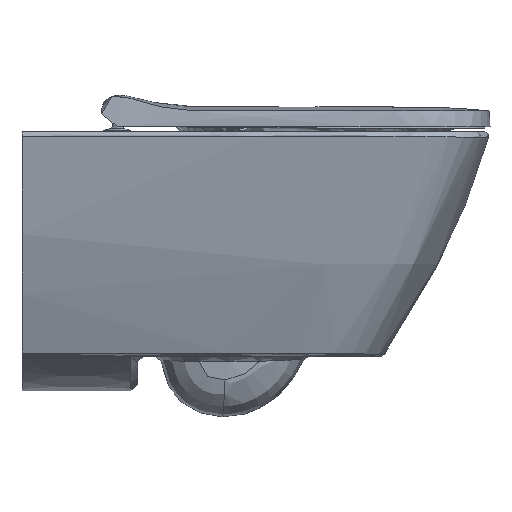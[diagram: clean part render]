
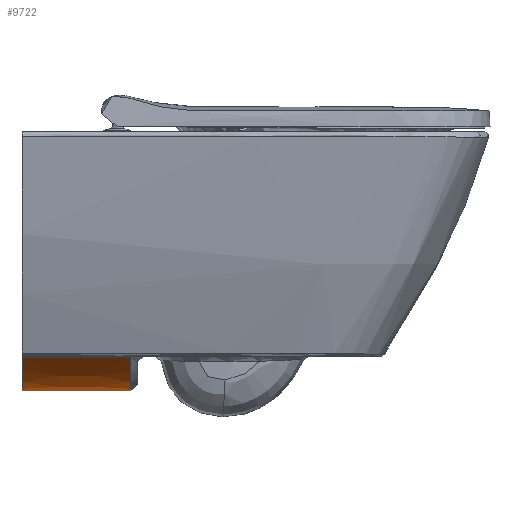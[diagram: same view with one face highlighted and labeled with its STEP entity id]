
A CAD part, left-side view. The second image highlights one B-rep face of the part: STEP entity #9722.
In plain terms, the highlighted free-form (B-spline) face has degree [3, 3] with [4, 4] control points.
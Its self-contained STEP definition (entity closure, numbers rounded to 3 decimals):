
#917=FACE_OUTER_BOUND('',#1481,.T.);
#1481=EDGE_LOOP('',(#6391,#6392,#6393,#6394));
#2044=LINE('',#23361,#2551);
#2053=LINE('',#33154,#2560);
#2551=VECTOR('',#10995,126.);
#2560=VECTOR('',#11020,126.022);
#3048=B_SPLINE_CURVE_WITH_KNOTS('',3,(#14102,#14103,#14104,#14105),
 .UNSPECIFIED.,.F.,.F.,(4,4),(0.,1.),.UNSPECIFIED.);
#3197=B_SPLINE_CURVE_WITH_KNOTS('',3,(#32421,#32422,#32423,#32424),
 .UNSPECIFIED.,.F.,.F.,(4,4),(0.,1.),.UNSPECIFIED.);
#3607=VERTEX_POINT('',#14093);
#3608=VERTEX_POINT('',#14101);
#3669=VERTEX_POINT('',#22880);
#3717=VERTEX_POINT('',#32411);
#4567=EDGE_CURVE('',#3607,#3608,#3048,.T.);
#4673=EDGE_CURVE('',#3607,#3669,#2044,.T.);
#4747=EDGE_CURVE('',#3669,#3717,#3197,.T.);
#4756=EDGE_CURVE('',#3608,#3717,#2053,.T.);
#6391=ORIENTED_EDGE('',*,*,#4673,.T.);
#6392=ORIENTED_EDGE('',*,*,#4747,.T.);
#6393=ORIENTED_EDGE('',*,*,#4756,.F.);
#6394=ORIENTED_EDGE('',*,*,#4567,.F.);
#8919=B_SPLINE_SURFACE_WITH_KNOTS('',3,3,((#33138,#33139,#33140,#33141),
(#33142,#33143,#33144,#33145),(#33146,#33147,#33148,#33149),(#33150,#33151,
#33152,#33153)),.UNSPECIFIED.,.F.,.F.,.F.,(4,4),(4,4),(0.,1.),
(0.,1.),.UNSPECIFIED.);
#9722=ADVANCED_FACE('',(#917),#8919,.T.);
#10995=DIRECTION('',(0.,-1.,0.));
#11020=DIRECTION('',(0.004,-1.,0.));
#14093=CARTESIAN_POINT('',(0.,0.,120.));
#14101=CARTESIAN_POINT('',(-88.634,0.,158.291));
#14102=CARTESIAN_POINT('Ctrl Pts',(0.,0.,
120.));
#14103=CARTESIAN_POINT('Ctrl Pts',(-33.415,0.,
120.));
#14104=CARTESIAN_POINT('Ctrl Pts',(-63.748,0.,
134.615));
#14105=CARTESIAN_POINT('Ctrl Pts',(-88.634,0.,
158.292));
#22880=CARTESIAN_POINT('',(0.,-126.,120.));
#23361=CARTESIAN_POINT('',(0.,-126.,120.));
#32411=CARTESIAN_POINT('',(-88.132,-126.021,158.28));
#32421=CARTESIAN_POINT('Ctrl Pts',(0.,-126.,
120.));
#32422=CARTESIAN_POINT('Ctrl Pts',(-33.226,-126.007,
120.));
#32423=CARTESIAN_POINT('Ctrl Pts',(-63.386,-126.014,
134.61));
#32424=CARTESIAN_POINT('Ctrl Pts',(-88.132,-126.021,
158.28));
#33138=CARTESIAN_POINT('Ctrl Pts',(0.,-126.021,
120.));
#33139=CARTESIAN_POINT('Ctrl Pts',(0.,-84.014,
120.));
#33140=CARTESIAN_POINT('Ctrl Pts',(0.,-42.007,
120.));
#33141=CARTESIAN_POINT('Ctrl Pts',(0.,0.,
120.));
#33142=CARTESIAN_POINT('Ctrl Pts',(-33.231,-126.021,
120.));
#33143=CARTESIAN_POINT('Ctrl Pts',(-33.292,-84.014,120.));
#33144=CARTESIAN_POINT('Ctrl Pts',(-33.354,-42.007,120.));
#33145=CARTESIAN_POINT('Ctrl Pts',(-33.415,0.,
120.));
#33146=CARTESIAN_POINT('Ctrl Pts',(-63.396,-126.021,
134.615));
#33147=CARTESIAN_POINT('Ctrl Pts',(-63.513,-84.014,
134.615));
#33148=CARTESIAN_POINT('Ctrl Pts',(-63.63,-42.007,134.615));
#33149=CARTESIAN_POINT('Ctrl Pts',(-63.748,0.,
134.615));
#33150=CARTESIAN_POINT('Ctrl Pts',(-88.144,-126.021,
158.292));
#33151=CARTESIAN_POINT('Ctrl Pts',(-88.307,-84.014,158.292));
#33152=CARTESIAN_POINT('Ctrl Pts',(-88.47,-42.007,158.292));
#33153=CARTESIAN_POINT('Ctrl Pts',(-88.634,0.,
158.292));
#33154=CARTESIAN_POINT('',(-88.634,0.,158.291));
